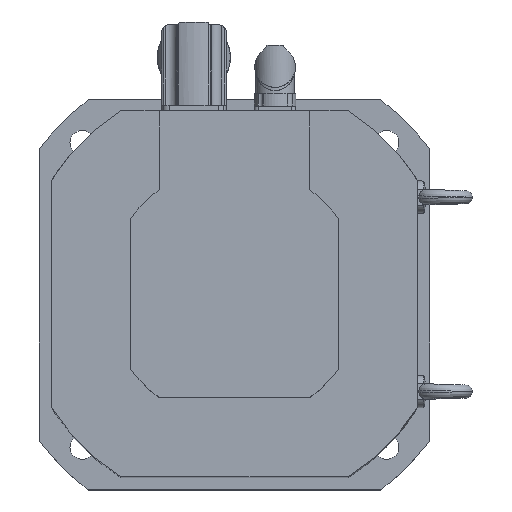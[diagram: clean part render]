
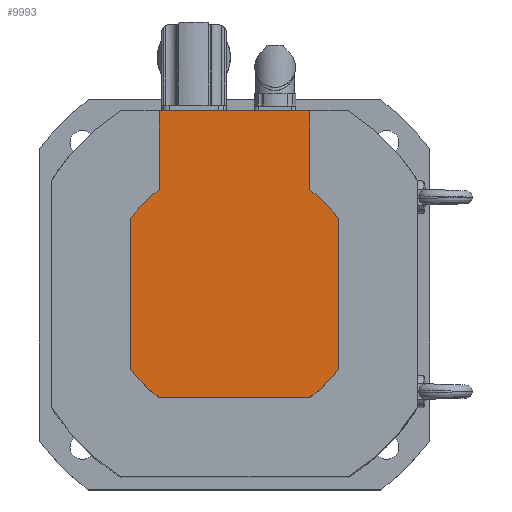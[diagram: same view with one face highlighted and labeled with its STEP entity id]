
A CAD part, top view. The second image highlights one B-rep face of the part: STEP entity #9993.
In plain terms, the highlighted planar face has unit normal (0, 0, 1).
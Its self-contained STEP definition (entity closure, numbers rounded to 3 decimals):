
#9681=CARTESIAN_POINT('',(64.,46.314,56.));
#9682=VERTEX_POINT('',#9681);
#9689=CARTESIAN_POINT('',(64.,-46.314,56.));
#9690=VERTEX_POINT('',#9689);
#9691=CARTESIAN_POINT('',(64.,-46.314,56.));
#9692=DIRECTION('',(0.0,1.0,0.0));
#9693=VECTOR('',#9692,92.628);
#9694=LINE('',#9691,#9693);
#9695=EDGE_CURVE('',#9690,#9682,#9694,.T.);
#9720=CARTESIAN_POINT('',(-64.,-46.314,56.));
#9721=VERTEX_POINT('',#9720);
#9728=CARTESIAN_POINT('',(-64.,46.314,56.));
#9729=VERTEX_POINT('',#9728);
#9730=CARTESIAN_POINT('',(-64.,46.314,56.));
#9731=DIRECTION('',(0.0,-1.0,0.0));
#9732=VECTOR('',#9731,92.628);
#9733=LINE('',#9730,#9732);
#9734=EDGE_CURVE('',#9729,#9721,#9733,.T.);
#9751=CARTESIAN_POINT('',(46.314,-64.,56.));
#9752=VERTEX_POINT('',#9751);
#9759=CARTESIAN_POINT('',(-46.314,-64.,56.));
#9760=VERTEX_POINT('',#9759);
#9761=CARTESIAN_POINT('',(-46.314,-64.,56.));
#9762=DIRECTION('',(1.0,0.0,0.0));
#9763=VECTOR('',#9762,92.628);
#9764=LINE('',#9761,#9763);
#9765=EDGE_CURVE('',#9760,#9752,#9764,.T.);
#9783=CARTESIAN_POINT('',(0.0,0.0,56.));
#9784=DIRECTION('',(0.0,0.0,-1.0));
#9785=DIRECTION('',(-1.0,0.0,0.0));
#9786=AXIS2_PLACEMENT_3D('',#9783,#9784,#9785);
#9787=CIRCLE('',#9786,79.0);
#9788=EDGE_CURVE('',#9690,#9752,#9787,.T.);
#9802=CARTESIAN_POINT('',(46.314,64.0,56.));
#9803=VERTEX_POINT('',#9802);
#9810=CARTESIAN_POINT('',(0.0,0.0,56.));
#9811=DIRECTION('',(0.0,0.0,-1.0));
#9812=DIRECTION('',(-1.0,0.0,0.0));
#9813=AXIS2_PLACEMENT_3D('',#9810,#9811,#9812);
#9814=CIRCLE('',#9813,79.0);
#9815=EDGE_CURVE('',#9803,#9682,#9814,.T.);
#9826=CARTESIAN_POINT('',(-46.314,64.0,56.));
#9827=VERTEX_POINT('',#9826);
#9828=CARTESIAN_POINT('',(0.0,0.0,56.));
#9829=DIRECTION('',(0.0,0.0,-1.0));
#9830=DIRECTION('',(-1.0,0.0,0.0));
#9831=AXIS2_PLACEMENT_3D('',#9828,#9829,#9830);
#9832=CIRCLE('',#9831,79.0);
#9833=EDGE_CURVE('',#9729,#9827,#9832,.T.);
#9853=CARTESIAN_POINT('',(0.0,0.0,56.));
#9854=DIRECTION('',(0.0,0.0,-1.0));
#9855=DIRECTION('',(-1.0,0.0,0.0));
#9856=AXIS2_PLACEMENT_3D('',#9853,#9854,#9855);
#9857=CIRCLE('',#9856,79.0);
#9858=EDGE_CURVE('',#9760,#9721,#9857,.T.);
#9870=CARTESIAN_POINT('',(-46.314,112.5,56.));
#9871=VERTEX_POINT('',#9870);
#9872=CARTESIAN_POINT('',(-46.314,64.0,56.));
#9873=DIRECTION('',(0.0,1.0,0.0));
#9874=VECTOR('',#9873,48.5);
#9875=LINE('',#9872,#9874);
#9876=EDGE_CURVE('',#9827,#9871,#9875,.T.);
#9892=CARTESIAN_POINT('',(46.314,112.5,56.));
#9893=VERTEX_POINT('',#9892);
#9900=CARTESIAN_POINT('',(46.314,64.0,56.));
#9901=DIRECTION('',(0.0,1.0,0.0));
#9902=VECTOR('',#9901,48.5);
#9903=LINE('',#9900,#9902);
#9904=EDGE_CURVE('',#9803,#9893,#9903,.T.);
#9924=CARTESIAN_POINT('',(-46.314,112.5,56.));
#9925=DIRECTION('',(1.0,0.0,0.0));
#9926=VECTOR('',#9925,92.628);
#9927=LINE('',#9924,#9926);
#9928=EDGE_CURVE('',#9871,#9893,#9927,.T.);
#9976=CARTESIAN_POINT('',(64.,-64.,56.));
#9977=DIRECTION('',(0.0,0.0,-1.0));
#9978=DIRECTION('',(-1.0,0.0,0.0));
#9979=AXIS2_PLACEMENT_3D('',#9976,#9977,#9978);
#9980=PLANE('',#9979);
#9981=ORIENTED_EDGE('',*,*,#9695,.T.);
#9982=ORIENTED_EDGE('',*,*,#9815,.F.);
#9983=ORIENTED_EDGE('',*,*,#9904,.T.);
#9984=ORIENTED_EDGE('',*,*,#9928,.F.);
#9985=ORIENTED_EDGE('',*,*,#9876,.F.);
#9986=ORIENTED_EDGE('',*,*,#9833,.F.);
#9987=ORIENTED_EDGE('',*,*,#9734,.T.);
#9988=ORIENTED_EDGE('',*,*,#9858,.F.);
#9989=ORIENTED_EDGE('',*,*,#9765,.T.);
#9990=ORIENTED_EDGE('',*,*,#9788,.F.);
#9991=EDGE_LOOP('',(#9981,#9982,#9983,#9984,#9985,#9986,#9987,#9988,#9989,#9990));
#9992=FACE_OUTER_BOUND('',#9991,.T.);
#9993=ADVANCED_FACE('',(#9992),#9980,.F.);
